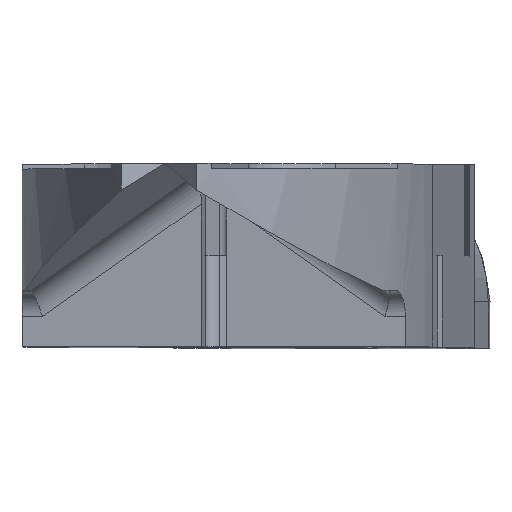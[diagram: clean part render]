
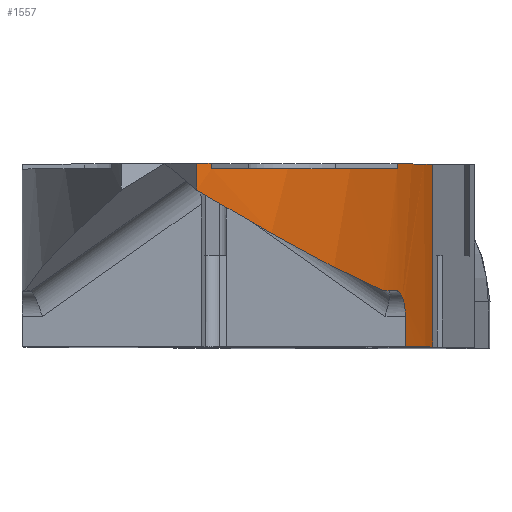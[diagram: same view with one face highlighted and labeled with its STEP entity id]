
A CAD part, top view. The second image highlights one B-rep face of the part: STEP entity #1557.
In plain terms, the highlighted cylindrical face has radius 30 mm (diameter 60 mm), a partial arc.
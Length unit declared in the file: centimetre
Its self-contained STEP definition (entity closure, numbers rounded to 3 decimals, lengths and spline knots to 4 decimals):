
#16=ELLIPSE('',#1677,3.6623,3.);
#35=CYLINDRICAL_SURFACE('',#1685,3.);
#85=B_SPLINE_CURVE_WITH_KNOTS('',3,(#2474,#2475,#2476,#2477,#2478,#2479,
#2480,#2481,#2482,#2483),.UNSPECIFIED.,.F.,.F.,(4,2,2,2,4),(-0.6083,
-0.5706,-0.533,-0.4947,-0.4564),
 .UNSPECIFIED.);
#132=FACE_OUTER_BOUND('',#222,.T.);
#222=EDGE_LOOP('',(#1082,#1083,#1084,#1085,#1086,#1087,#1088,#1089,#1090,
#1091,#1092,#1093));
#299=LINE('',#2406,#407);
#302=LINE('',#2413,#410);
#315=LINE('',#2459,#423);
#327=LINE('',#2509,#435);
#328=LINE('',#2512,#436);
#407=VECTOR('',#1869,0.02);
#410=VECTOR('',#1874,0.105);
#423=VECTOR('',#1917,0.02);
#435=VECTOR('',#1961,0.12);
#436=VECTOR('',#1964,0.72);
#533=CIRCLE('',#1661,2.9996);
#535=CIRCLE('',#1663,3.);
#541=CIRCLE('',#1673,3.);
#542=CIRCLE('',#1680,3.);
#545=CIRCLE('',#1686,3.);
#624=VERTEX_POINT('',#2403);
#625=VERTEX_POINT('',#2405);
#627=VERTEX_POINT('',#2410);
#628=VERTEX_POINT('',#2412);
#637=VERTEX_POINT('',#2436);
#638=VERTEX_POINT('',#2438);
#646=VERTEX_POINT('',#2458);
#650=VERTEX_POINT('',#2471);
#651=VERTEX_POINT('',#2473);
#652=VERTEX_POINT('',#2486);
#658=VERTEX_POINT('',#2508);
#659=VERTEX_POINT('',#2510);
#776=EDGE_CURVE('',#624,#625,#299,.T.);
#779=EDGE_CURVE('',#627,#628,#302,.T.);
#790=EDGE_CURVE('',#628,#624,#533,.T.);
#793=EDGE_CURVE('',#638,#637,#535,.T.);
#803=EDGE_CURVE('',#646,#637,#315,.T.);
#807=EDGE_CURVE('',#625,#646,#541,.T.);
#810=EDGE_CURVE('',#650,#651,#85,.T.);
#812=EDGE_CURVE('',#652,#627,#16,.T.);
#817=EDGE_CURVE('',#651,#652,#542,.T.);
#824=EDGE_CURVE('',#650,#658,#327,.T.);
#825=EDGE_CURVE('',#658,#659,#545,.T.);
#826=EDGE_CURVE('',#659,#638,#328,.T.);
#1082=ORIENTED_EDGE('',*,*,#776,.F.);
#1083=ORIENTED_EDGE('',*,*,#790,.F.);
#1084=ORIENTED_EDGE('',*,*,#779,.F.);
#1085=ORIENTED_EDGE('',*,*,#812,.F.);
#1086=ORIENTED_EDGE('',*,*,#817,.F.);
#1087=ORIENTED_EDGE('',*,*,#810,.F.);
#1088=ORIENTED_EDGE('',*,*,#824,.T.);
#1089=ORIENTED_EDGE('',*,*,#825,.T.);
#1090=ORIENTED_EDGE('',*,*,#826,.T.);
#1091=ORIENTED_EDGE('',*,*,#793,.T.);
#1092=ORIENTED_EDGE('',*,*,#803,.F.);
#1093=ORIENTED_EDGE('',*,*,#807,.F.);
#1557=ADVANCED_FACE('',(#132),#35,.T.);
#1661=AXIS2_PLACEMENT_3D('',#2433,#1893,#1894);
#1663=AXIS2_PLACEMENT_3D('',#2439,#1898,#1899);
#1673=AXIS2_PLACEMENT_3D('',#2466,#1926,#1927);
#1677=AXIS2_PLACEMENT_3D('',#2487,#1936,#1937);
#1680=AXIS2_PLACEMENT_3D('',#2495,#1945,#1946);
#1685=AXIS2_PLACEMENT_3D('',#2507,#1959,#1960);
#1686=AXIS2_PLACEMENT_3D('',#2511,#1962,#1963);
#1869=DIRECTION('',(0.,-1.,0.));
#1874=DIRECTION('',(0.,1.,0.));
#1893=DIRECTION('center_axis',(0.,1.,0.));
#1894=DIRECTION('ref_axis',(0.698,0.,0.716));
#1898=DIRECTION('center_axis',(0.,-1.,0.));
#1899=DIRECTION('ref_axis',(0.941,0.,0.337));
#1917=DIRECTION('',(0.,1.,0.));
#1926=DIRECTION('center_axis',(0.,1.,0.));
#1927=DIRECTION('ref_axis',(0.941,0.,0.337));
#1936=DIRECTION('center_axis',(-0.567,-0.819,-0.088));
#1937=DIRECTION('ref_axis',(0.809,-0.574,0.126));
#1945=DIRECTION('center_axis',(0.,-1.,0.));
#1946=DIRECTION('ref_axis',(0.882,0.,0.47));
#1959=DIRECTION('center_axis',(0.,-1.,0.));
#1960=DIRECTION('ref_axis',(0.882,0.,0.47));
#1961=DIRECTION('',(0.,-1.,0.));
#1962=DIRECTION('center_axis',(0.,1.,0.));
#1963=DIRECTION('ref_axis',(0.988,0.,0.154));
#1964=DIRECTION('',(0.,1.,0.));
#2403=CARTESIAN_POINT('',(-0.1614,-0.22,4.8882));
#2405=CARTESIAN_POINT('',(-0.1614,-0.24,4.8882));
#2406=CARTESIAN_POINT('',(-0.1614,-0.22,4.8882));
#2410=CARTESIAN_POINT('',(-0.2208,-0.325,4.9445));
#2412=CARTESIAN_POINT('',(-0.2208,-0.22,4.9445));
#2413=CARTESIAN_POINT('',(-0.2208,-0.325,4.9445));
#2433=CARTESIAN_POINT('Origin',(-2.2558,-0.22,2.7409));
#2436=CARTESIAN_POINT('',(0.5683,-0.22,3.7517));
#2438=CARTESIAN_POINT('',(0.7082,-0.22,3.2018));
#2439=CARTESIAN_POINT('Origin',(-2.2561,-0.22,2.7406));
#2458=CARTESIAN_POINT('',(0.5683,-0.24,3.7517));
#2459=CARTESIAN_POINT('',(0.5683,-0.24,3.7517));
#2466=CARTESIAN_POINT('Origin',(-2.2561,-0.24,2.7406));
#2471=CARTESIAN_POINT('',(0.6009,-0.82,3.6555));
#2473=CARTESIAN_POINT('',(0.5683,-0.72,3.7517));
#2474=CARTESIAN_POINT('Ctrl Pts',(0.6009,-0.82,
3.6555));
#2475=CARTESIAN_POINT('Ctrl Pts',(0.6009,-0.8075,
3.6555));
#2476=CARTESIAN_POINT('Ctrl Pts',(0.6002,-0.7941,
3.658));
#2477=CARTESIAN_POINT('Ctrl Pts',(0.597,-0.7695,
3.6677));
#2478=CARTESIAN_POINT('Ctrl Pts',(0.5946,-0.7583,3.6751));
#2479=CARTESIAN_POINT('Ctrl Pts',(0.589,-0.7405,
3.6922));
#2480=CARTESIAN_POINT('Ctrl Pts',(0.5853,-0.7328,
3.703));
#2481=CARTESIAN_POINT('Ctrl Pts',(0.5772,-0.7225,
3.7268));
#2482=CARTESIAN_POINT('Ctrl Pts',(0.5727,-0.72,3.7397));
#2483=CARTESIAN_POINT('Ctrl Pts',(0.5683,-0.72,3.7517));
#2486=CARTESIAN_POINT('',(0.5137,-0.72,3.893));
#2487=CARTESIAN_POINT('Origin',(-2.2561,1.3205,2.7406));
#2495=CARTESIAN_POINT('Origin',(-2.2561,-0.72,2.7406));
#2507=CARTESIAN_POINT('Origin',(-2.2561,-0.94,2.7406));
#2508=CARTESIAN_POINT('',(0.6009,-0.94,3.6555));
#2509=CARTESIAN_POINT('',(0.6009,-0.82,3.6555));
#2510=CARTESIAN_POINT('',(0.7082,-0.94,3.2018));
#2511=CARTESIAN_POINT('Origin',(-2.2561,-0.94,2.7406));
#2512=CARTESIAN_POINT('',(0.7082,-0.94,3.2018));
